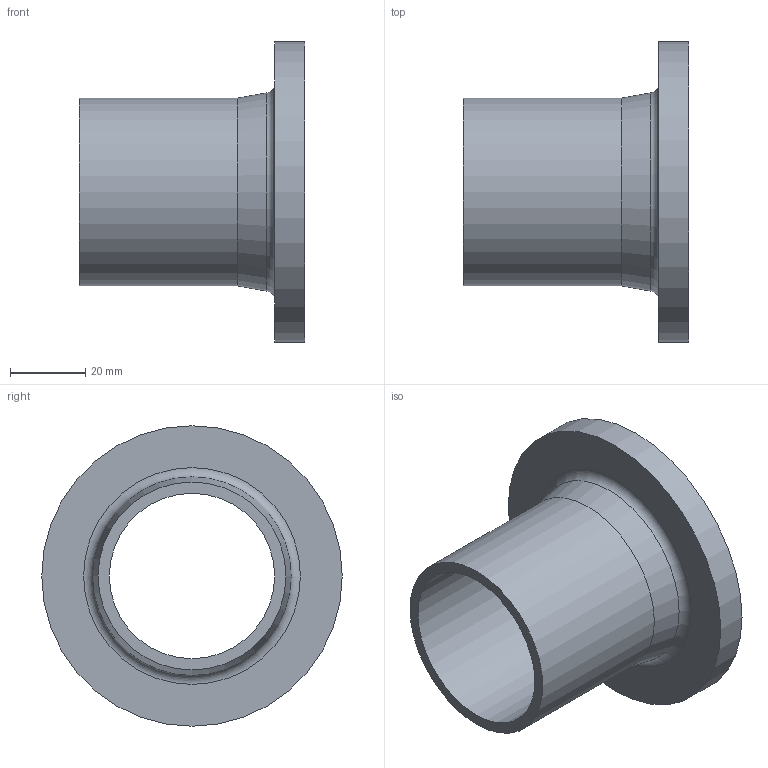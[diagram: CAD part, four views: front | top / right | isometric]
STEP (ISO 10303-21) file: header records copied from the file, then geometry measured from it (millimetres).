
FILE_DESCRIPTION(/* description */ (''),/* implementation_level */ '2;1');
FILE_NAME(/* name */ 'Z:\Geberit\Export\NewStep\361744.stp',/* time_stamp */ '2014-04-01T21:07:30+02:00',/* author */ ('nelson'),/* organization */ (''),/* preprocessor_version */ 'ST-DEVELOPER v15.2',/* originating_system */ 'Autodesk Inventor 2014',/* authorisation */ '');
FILE_SCHEMA (('AUTOMOTIVE_DESIGN { 1 0 10303 214 3 1 1 }'));
Length unit declared in the file: millimetre
Products named in the file (1): 361744
Bounding box: 60 x 80 x 80 mm (x, y, z)
Volume: 52065.6 mm3; surface area: 25646 mm2
Topology: 1 solids, 1 shells, 17 faces, 28 edges, 17 vertices
Faces by surface type: cone 7, plane 6, cylinder 3, torus 1
Full cylindrical faces by diameter (mm): 44 x1, 50 x1, 80 x1
Entity records: 386 total; most frequent: DIRECTION 70, CARTESIAN_POINT 52, AXIS2_PLACEMENT_3D 35, EDGE_LOOP 34, ORIENTED_EDGE 34, FACE_BOUND 21, STYLED_ITEM 18, CIRCLE 17
